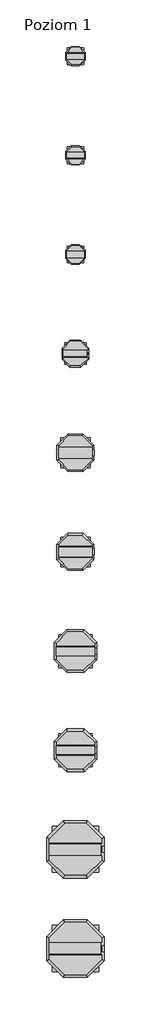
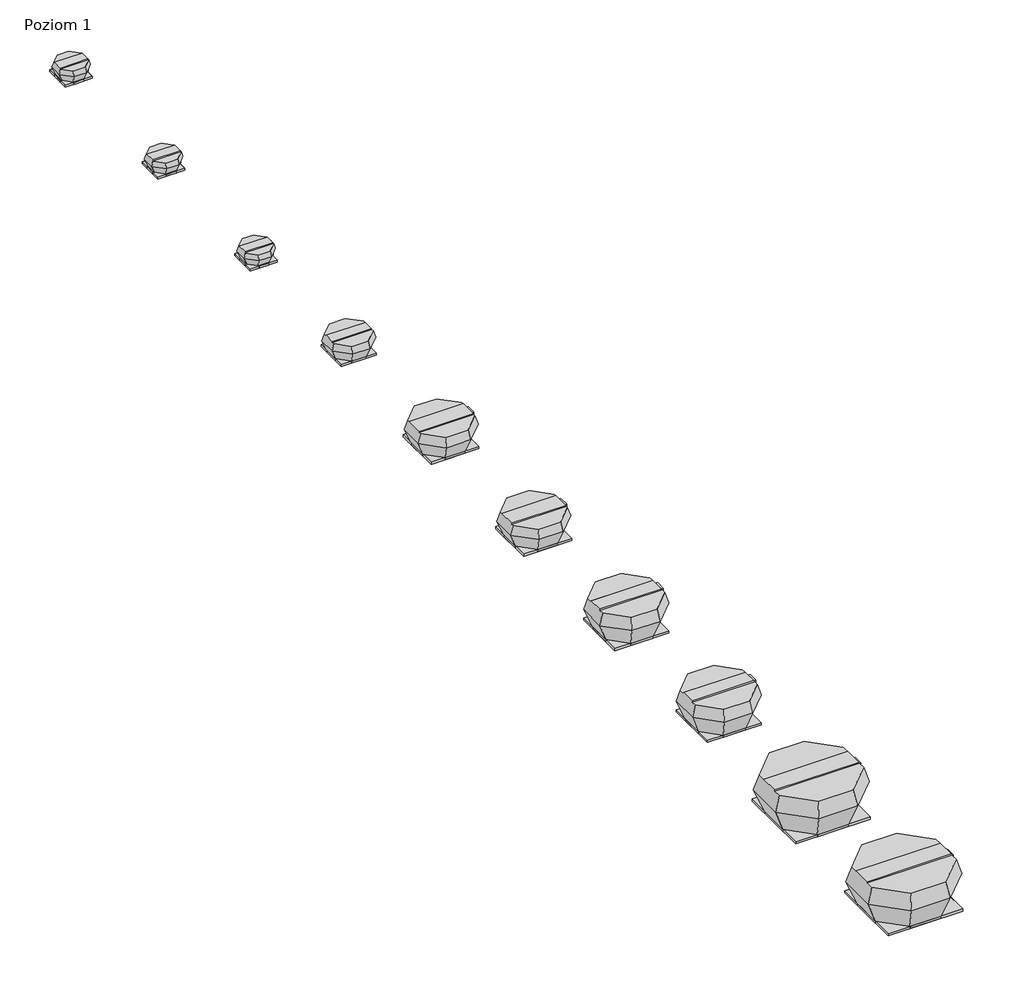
# One storey: 10 duct fittings, 10 unitary equipment elements.
"""IFC4 building model written with IfcOpenShell, lengths in millimetres."""

from ifc_helpers import new_model, si_unit, origin, place, context, project, spatial, transform, mapped, element, save
from components import duct_fitting_180_5dd8c60e, duct_fitting_250_9d40ecca, duct_fitting_400_42e1e227, duct_fitting_560_c8fad201, unitary_equipment_c2e2b98b, unitary_equipment_949a860e, unitary_equipment_f77e3ca6, unitary_equipment_8482c4d3, unitary_equipment_78778f7f, unitary_equipment_7c28f33a

model = new_model("IFC4")

# Units and contexts
model_context = context("Model", 3, world=origin())
ifc_project = project(units=[si_unit("LENGTHUNIT", "METRE", prefix="MILLI")], contexts=[model_context])

# Site, building, storey
site = spatial("IfcSite", under=ifc_project)
building = spatial("IfcBuilding", under=site)
storey = spatial("IfcBuildingStorey", under=building, Name="Poziom 1", Elevation=0.0)

# Duct fittings
placement = place(None, origin())
duct_fitting_180_shape = duct_fitting_180_5dd8c60e(model_context)
element("IfcDuctFitting", 1, ObjectType="VE-Zagnieżdżone-Akcesorium-ParaForma-Harmann-DAF-Króciec_Przyłączeniowy : 180", at=placement, inside=storey, context=model_context, shape_type="MappedRepresentation", body=[
    mapped(duct_fitting_180_shape, transform((4582.5, 1000.0, 0.0), x_axis=(1.0, 0.0, 0.0), y_axis=(0.0, 1.0, 0.0), z_axis=(0.0, 0.0, 1.0))),
])
element("IfcDuctFitting", 2, ObjectType="VE-Zagnieżdżone-Akcesorium-ParaForma-Harmann-DAF-Króciec_Przyłączeniowy : 180", at=placement, inside=storey, context=model_context, shape_type="MappedRepresentation", body=[
    mapped(duct_fitting_180_shape, transform((4582.5, 3000.0, 0.0), x_axis=(1.0, 0.0, 0.0), y_axis=(0.0, 1.0, 0.0), z_axis=(0.0, 0.0, 1.0))),
])
element("IfcDuctFitting", 3, ObjectType="VE-Zagnieżdżone-Akcesorium-ParaForma-Harmann-DAF-Króciec_Przyłączeniowy : 180", at=placement, inside=storey, context=model_context, shape_type="MappedRepresentation", body=[
    mapped(duct_fitting_180_shape, transform((4582.5, 5000.0, 0.0), x_axis=(1.0, 0.0, 0.0), y_axis=(0.0, 1.0, 0.0), z_axis=(0.0, 0.0, 1.0))),
])
duct_fitting_250_shape = duct_fitting_250_9d40ecca(model_context)
element("IfcDuctFitting", 4, ObjectType="VE-Zagnieżdżone-Akcesorium-ParaForma-Harmann-DAF-Króciec_Przyłączeniowy : 250", at=placement, inside=storey, context=model_context, shape_type="MappedRepresentation", body=[
    mapped(duct_fitting_250_shape, transform((4582.5, -1000.0, 0.0), x_axis=(1.0, 0.0, 0.0), y_axis=(0.0, 1.0, 0.0), z_axis=(0.0, 0.0, 1.0))),
])
duct_fitting_400_shape = duct_fitting_400_42e1e227(model_context)
element("IfcDuctFitting", 5, ObjectType="VE-Zagnieżdżone-Akcesorium-ParaForma-Harmann-DAF-Króciec_Przyłączeniowy : 400", at=placement, inside=storey, context=model_context, shape_type="MappedRepresentation", body=[
    mapped(duct_fitting_400_shape, transform((4582.5, -5000.0, 0.0), x_axis=(1.0, 0.0, 0.0), y_axis=(0.0, 1.0, 0.0), z_axis=(0.0, 0.0, 1.0))),
])
element("IfcDuctFitting", 6, ObjectType="VE-Zagnieżdżone-Akcesorium-ParaForma-Harmann-DAF-Króciec_Przyłączeniowy : 400", at=placement, inside=storey, context=model_context, shape_type="MappedRepresentation", body=[
    mapped(duct_fitting_400_shape, transform((4582.5, -3000.0, 0.0), x_axis=(1.0, 0.0, 0.0), y_axis=(0.0, 1.0, 0.0), z_axis=(0.0, 0.0, 1.0))),
])
element("IfcDuctFitting", 7, ObjectType="VE-Zagnieżdżone-Akcesorium-ParaForma-Harmann-DAF-Króciec_Przyłączeniowy : 400", at=placement, inside=storey, context=model_context, shape_type="MappedRepresentation", body=[
    mapped(duct_fitting_400_shape, transform((4582.5, -9000.0, 0.0), x_axis=(1.0, 0.0, 0.0), y_axis=(0.0, 1.0, 0.0), z_axis=(0.0, 0.0, 1.0))),
])
element("IfcDuctFitting", 8, ObjectType="VE-Zagnieżdżone-Akcesorium-ParaForma-Harmann-DAF-Króciec_Przyłączeniowy : 400", at=placement, inside=storey, context=model_context, shape_type="MappedRepresentation", body=[
    mapped(duct_fitting_400_shape, transform((4582.5, -7000.0, 0.0), x_axis=(1.0, 0.0, 0.0), y_axis=(0.0, 1.0, 0.0), z_axis=(0.0, 0.0, 1.0))),
])
duct_fitting_560_shape = duct_fitting_560_c8fad201(model_context)
element("IfcDuctFitting", 9, ObjectType="VE-Zagnieżdżone-Akcesorium-ParaForma-Harmann-DAF-Króciec_Przyłączeniowy : 560", at=placement, inside=storey, context=model_context, shape_type="MappedRepresentation", body=[
    mapped(duct_fitting_560_shape, transform((4582.5, -13000.0, 0.0), x_axis=(1.0, 0.0, 0.0), y_axis=(0.0, 1.0, 0.0), z_axis=(0.0, 0.0, 1.0))),
])
element("IfcDuctFitting", 10, ObjectType="VE-Zagnieżdżone-Akcesorium-ParaForma-Harmann-DAF-Króciec_Przyłączeniowy : 560", at=placement, inside=storey, context=model_context, shape_type="MappedRepresentation", body=[
    mapped(duct_fitting_560_shape, transform((4582.5, -11000.0, 0.0), x_axis=(1.0, 0.0, 0.0), y_axis=(0.0, 1.0, 0.0), z_axis=(0.0, 0.0, 1.0))),
])

# Unitary equipment
unitary_equipment_shape = unitary_equipment_c2e2b98b(model_context)
element("IfcUnitaryEquipment", 11, ObjectType="VE-Wentylator-ParaForma-Harmann-VIVER_PS_EC-Wywiewny : 2-190/600EC", at=placement, inside=storey, context=model_context, shape_type="MappedRepresentation", body=[
    mapped(unitary_equipment_shape, transform((4582.5, 5000.0, 0.0), x_axis=(1.0, 0.0, 0.0), y_axis=(0.0, 1.0, 0.0), z_axis=(0.0, 0.0, 1.0))),
])
element("IfcUnitaryEquipment", 12, ObjectType="VE-Wentylator-ParaForma-Harmann-VIVER_PS_EC-Wywiewny : 2-220/950EC", at=placement, inside=storey, context=model_context, shape_type="MappedRepresentation", body=[
    mapped(unitary_equipment_shape, transform((4582.5, 3000.0, 0.0), x_axis=(1.0, 0.0, 0.0), y_axis=(0.0, 1.0, 0.0), z_axis=(0.0, 0.0, 1.0))),
])
unitary_equipment_2_shape = unitary_equipment_949a860e(model_context)
element("IfcUnitaryEquipment", 13, ObjectType="VE-Wentylator-ParaForma-Harmann-VIVER_PS_EC-Wywiewny : 2-250/1200EC", at=placement, inside=storey, context=model_context, shape_type="MappedRepresentation", body=[
    mapped(unitary_equipment_2_shape, transform((4582.5, 1000.0, 0.0), x_axis=(1.0, 0.0, 0.0), y_axis=(0.0, 1.0, 0.0), z_axis=(0.0, 0.0, 1.0))),
])
unitary_equipment_3_shape = unitary_equipment_f77e3ca6(model_context)
element("IfcUnitaryEquipment", 14, ObjectType="VE-Wentylator-ParaForma-Harmann-VIVER_PS_EC-Wywiewny : 2-280/1900EC", at=placement, inside=storey, context=model_context, shape_type="MappedRepresentation", body=[
    mapped(unitary_equipment_3_shape, transform((4582.5, -1000.0, 0.0), x_axis=(1.0, 0.0, 0.0), y_axis=(0.0, 1.0, 0.0), z_axis=(0.0, 0.0, 1.0))),
])
unitary_equipment_4_shape = unitary_equipment_8482c4d3(model_context)
element("IfcUnitaryEquipment", 15, ObjectType="VE-Wentylator-ParaForma-Harmann-VIVER_PS_EC-Wywiewny : 4-355/2700EC", at=placement, inside=storey, context=model_context, shape_type="MappedRepresentation", body=[
    mapped(unitary_equipment_4_shape, transform((4582.5, -3000.0, 0.0), x_axis=(1.0, 0.0, 0.0), y_axis=(0.0, 1.0, 0.0), z_axis=(0.0, 0.0, 1.0))),
])
element("IfcUnitaryEquipment", 16, ObjectType="VE-Wentylator-ParaForma-Harmann-VIVER_PS_EC-Wywiewny : 4-400/4400EC", at=placement, inside=storey, context=model_context, shape_type="MappedRepresentation", body=[
    mapped(unitary_equipment_4_shape, transform((4582.5, -5000.0, 0.0), x_axis=(1.0, 0.0, 0.0), y_axis=(0.0, 1.0, 0.0), z_axis=(0.0, 0.0, 1.0))),
])
unitary_equipment_5_shape = unitary_equipment_78778f7f(model_context)
element("IfcUnitaryEquipment", 17, ObjectType="VE-Wentylator-ParaForma-Harmann-VIVER_PS_EC-Wywiewny : 4-450/5500EC", at=placement, inside=storey, context=model_context, shape_type="MappedRepresentation", body=[
    mapped(unitary_equipment_5_shape, transform((4582.5, -7000.0, 0.0), x_axis=(1.0, 0.0, 0.0), y_axis=(0.0, 1.0, 0.0), z_axis=(0.0, 0.0, 1.0))),
])
element("IfcUnitaryEquipment", 18, ObjectType="VE-Wentylator-ParaForma-Harmann-VIVER_PS_EC-Wywiewny : 4-500/8000TEC", at=placement, inside=storey, context=model_context, shape_type="MappedRepresentation", body=[
    mapped(unitary_equipment_5_shape, transform((4582.5, -9000.0, 0.0), x_axis=(1.0, 0.0, 0.0), y_axis=(0.0, 1.0, 0.0), z_axis=(0.0, 0.0, 1.0))),
])
unitary_equipment_6_shape = unitary_equipment_7c28f33a(model_context)
element("IfcUnitaryEquipment", 19, ObjectType="VE-Wentylator-ParaForma-Harmann-VIVER_PS_EC-Wywiewny : 4-560/12000TEC", at=placement, inside=storey, context=model_context, shape_type="MappedRepresentation", body=[
    mapped(unitary_equipment_6_shape, transform((4582.5, -11000.0, 0.0), x_axis=(1.0, 0.0, 0.0), y_axis=(0.0, 1.0, 0.0), z_axis=(0.0, 0.0, 1.0))),
])
element("IfcUnitaryEquipment", 20, ObjectType="VE-Wentylator-ParaForma-Harmann-VIVER_PS_EC-Wywiewny : 4-630/14100TEC", at=placement, inside=storey, context=model_context, shape_type="MappedRepresentation", body=[
    mapped(unitary_equipment_6_shape, transform((4582.5, -13000.0, 0.0), x_axis=(1.0, 0.0, 0.0), y_axis=(0.0, 1.0, 0.0), z_axis=(0.0, 0.0, 1.0))),
])

save(model, "model.ifc")
